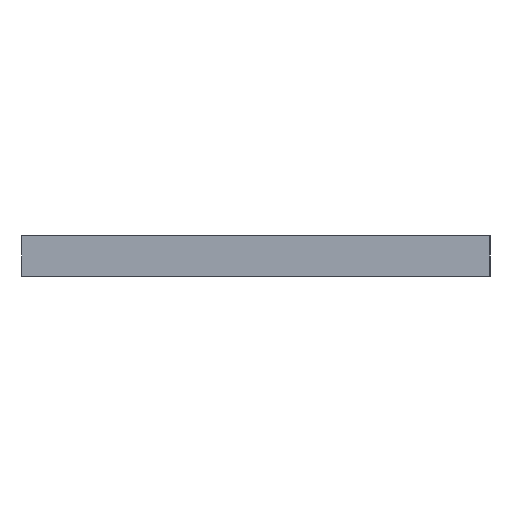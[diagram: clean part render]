
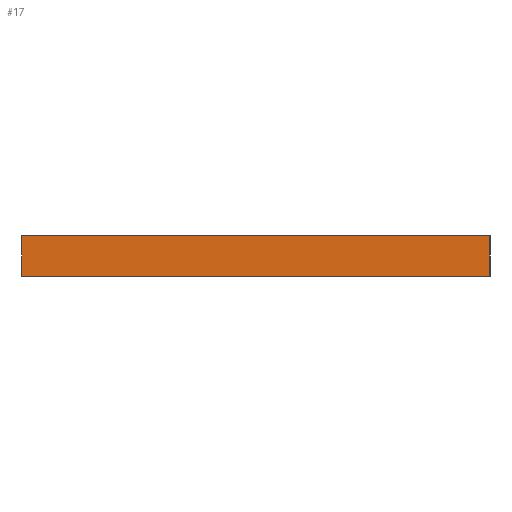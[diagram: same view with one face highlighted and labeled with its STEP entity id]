
A CAD part, left-side view. The second image highlights one B-rep face of the part: STEP entity #17.
In plain terms, the highlighted planar face has unit normal (-1, 0, 0).
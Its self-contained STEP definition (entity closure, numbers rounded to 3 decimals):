
#17 = ADVANCED_FACE('',(#18),#32,.F.);
#18 = FACE_BOUND('',#19,.F.);
#19 = EDGE_LOOP('',(#20,#55,#83,#111));
#20 = ORIENTED_EDGE('',*,*,#21,.F.);
#21 = EDGE_CURVE('',#22,#24,#26,.T.);
#22 = VERTEX_POINT('',#23);
#23 = CARTESIAN_POINT('',(-100.,-70.,0.));
#24 = VERTEX_POINT('',#25);
#25 = CARTESIAN_POINT('',(-100.,-70.,12.));
#26 = SURFACE_CURVE('',#27,(#31,#43),.PCURVE_S1.);
#27 = LINE('',#28,#29);
#28 = CARTESIAN_POINT('',(-100.,-70.,0.));
#29 = VECTOR('',#30,1.);
#30 = DIRECTION('',(0.,0.,1.));
#31 = PCURVE('',#32,#37);
#32 = PLANE('',#33);
#33 = AXIS2_PLACEMENT_3D('',#34,#35,#36);
#34 = CARTESIAN_POINT('',(-100.,-70.,0.));
#35 = DIRECTION('',(1.,0.,0.));
#36 = DIRECTION('',(0.,0.,1.));
#37 = DEFINITIONAL_REPRESENTATION('',(#38),#42);
#38 = LINE('',#39,#40);
#39 = CARTESIAN_POINT('',(0.,0.));
#40 = VECTOR('',#41,1.);
#41 = DIRECTION('',(1.,0.));
#42 = ( GEOMETRIC_REPRESENTATION_CONTEXT(2) 
PARAMETRIC_REPRESENTATION_CONTEXT() REPRESENTATION_CONTEXT('2D SPACE',''
  ) );
#43 = PCURVE('',#44,#49);
#44 = PLANE('',#45);
#45 = AXIS2_PLACEMENT_3D('',#46,#47,#48);
#46 = CARTESIAN_POINT('',(-100.,-70.,0.));
#47 = DIRECTION('',(0.,1.,0.));
#48 = DIRECTION('',(0.,0.,1.));
#49 = DEFINITIONAL_REPRESENTATION('',(#50),#54);
#50 = LINE('',#51,#52);
#51 = CARTESIAN_POINT('',(0.,0.));
#52 = VECTOR('',#53,1.);
#53 = DIRECTION('',(1.,0.));
#54 = ( GEOMETRIC_REPRESENTATION_CONTEXT(2) 
PARAMETRIC_REPRESENTATION_CONTEXT() REPRESENTATION_CONTEXT('2D SPACE',''
  ) );
#55 = ORIENTED_EDGE('',*,*,#56,.T.);
#56 = EDGE_CURVE('',#22,#57,#59,.T.);
#57 = VERTEX_POINT('',#58);
#58 = CARTESIAN_POINT('',(-100.,70.,0.));
#59 = SURFACE_CURVE('',#60,(#64,#71),.PCURVE_S1.);
#60 = LINE('',#61,#62);
#61 = CARTESIAN_POINT('',(-100.,-70.,0.));
#62 = VECTOR('',#63,1.);
#63 = DIRECTION('',(0.,1.,0.));
#64 = PCURVE('',#32,#65);
#65 = DEFINITIONAL_REPRESENTATION('',(#66),#70);
#66 = LINE('',#67,#68);
#67 = CARTESIAN_POINT('',(0.,0.));
#68 = VECTOR('',#69,1.);
#69 = DIRECTION('',(0.,-1.));
#70 = ( GEOMETRIC_REPRESENTATION_CONTEXT(2) 
PARAMETRIC_REPRESENTATION_CONTEXT() REPRESENTATION_CONTEXT('2D SPACE',''
  ) );
#71 = PCURVE('',#72,#77);
#72 = PLANE('',#73);
#73 = AXIS2_PLACEMENT_3D('',#74,#75,#76);
#74 = CARTESIAN_POINT('',(-100.,-70.,0.));
#75 = DIRECTION('',(0.,0.,1.));
#76 = DIRECTION('',(1.,0.,0.));
#77 = DEFINITIONAL_REPRESENTATION('',(#78),#82);
#78 = LINE('',#79,#80);
#79 = CARTESIAN_POINT('',(0.,0.));
#80 = VECTOR('',#81,1.);
#81 = DIRECTION('',(0.,1.));
#82 = ( GEOMETRIC_REPRESENTATION_CONTEXT(2) 
PARAMETRIC_REPRESENTATION_CONTEXT() REPRESENTATION_CONTEXT('2D SPACE',''
  ) );
#83 = ORIENTED_EDGE('',*,*,#84,.T.);
#84 = EDGE_CURVE('',#57,#85,#87,.T.);
#85 = VERTEX_POINT('',#86);
#86 = CARTESIAN_POINT('',(-100.,70.,12.));
#87 = SURFACE_CURVE('',#88,(#92,#99),.PCURVE_S1.);
#88 = LINE('',#89,#90);
#89 = CARTESIAN_POINT('',(-100.,70.,0.));
#90 = VECTOR('',#91,1.);
#91 = DIRECTION('',(0.,0.,1.));
#92 = PCURVE('',#32,#93);
#93 = DEFINITIONAL_REPRESENTATION('',(#94),#98);
#94 = LINE('',#95,#96);
#95 = CARTESIAN_POINT('',(0.,-140.));
#96 = VECTOR('',#97,1.);
#97 = DIRECTION('',(1.,0.));
#98 = ( GEOMETRIC_REPRESENTATION_CONTEXT(2) 
PARAMETRIC_REPRESENTATION_CONTEXT() REPRESENTATION_CONTEXT('2D SPACE',''
  ) );
#99 = PCURVE('',#100,#105);
#100 = PLANE('',#101);
#101 = AXIS2_PLACEMENT_3D('',#102,#103,#104);
#102 = CARTESIAN_POINT('',(-100.,70.,0.));
#103 = DIRECTION('',(0.,1.,0.));
#104 = DIRECTION('',(0.,0.,1.));
#105 = DEFINITIONAL_REPRESENTATION('',(#106),#110);
#106 = LINE('',#107,#108);
#107 = CARTESIAN_POINT('',(0.,0.));
#108 = VECTOR('',#109,1.);
#109 = DIRECTION('',(1.,0.));
#110 = ( GEOMETRIC_REPRESENTATION_CONTEXT(2) 
PARAMETRIC_REPRESENTATION_CONTEXT() REPRESENTATION_CONTEXT('2D SPACE',''
  ) );
#111 = ORIENTED_EDGE('',*,*,#112,.F.);
#112 = EDGE_CURVE('',#24,#85,#113,.T.);
#113 = SURFACE_CURVE('',#114,(#118,#125),.PCURVE_S1.);
#114 = LINE('',#115,#116);
#115 = CARTESIAN_POINT('',(-100.,-70.,12.));
#116 = VECTOR('',#117,1.);
#117 = DIRECTION('',(0.,1.,0.));
#118 = PCURVE('',#32,#119);
#119 = DEFINITIONAL_REPRESENTATION('',(#120),#124);
#120 = LINE('',#121,#122);
#121 = CARTESIAN_POINT('',(12.,0.));
#122 = VECTOR('',#123,1.);
#123 = DIRECTION('',(0.,-1.));
#124 = ( GEOMETRIC_REPRESENTATION_CONTEXT(2) 
PARAMETRIC_REPRESENTATION_CONTEXT() REPRESENTATION_CONTEXT('2D SPACE',''
  ) );
#125 = PCURVE('',#126,#131);
#126 = PLANE('',#127);
#127 = AXIS2_PLACEMENT_3D('',#128,#129,#130);
#128 = CARTESIAN_POINT('',(-100.,-70.,12.));
#129 = DIRECTION('',(0.,0.,1.));
#130 = DIRECTION('',(1.,0.,0.));
#131 = DEFINITIONAL_REPRESENTATION('',(#132),#136);
#132 = LINE('',#133,#134);
#133 = CARTESIAN_POINT('',(0.,0.));
#134 = VECTOR('',#135,1.);
#135 = DIRECTION('',(0.,1.));
#136 = ( GEOMETRIC_REPRESENTATION_CONTEXT(2) 
PARAMETRIC_REPRESENTATION_CONTEXT() REPRESENTATION_CONTEXT('2D SPACE',''
  ) );
